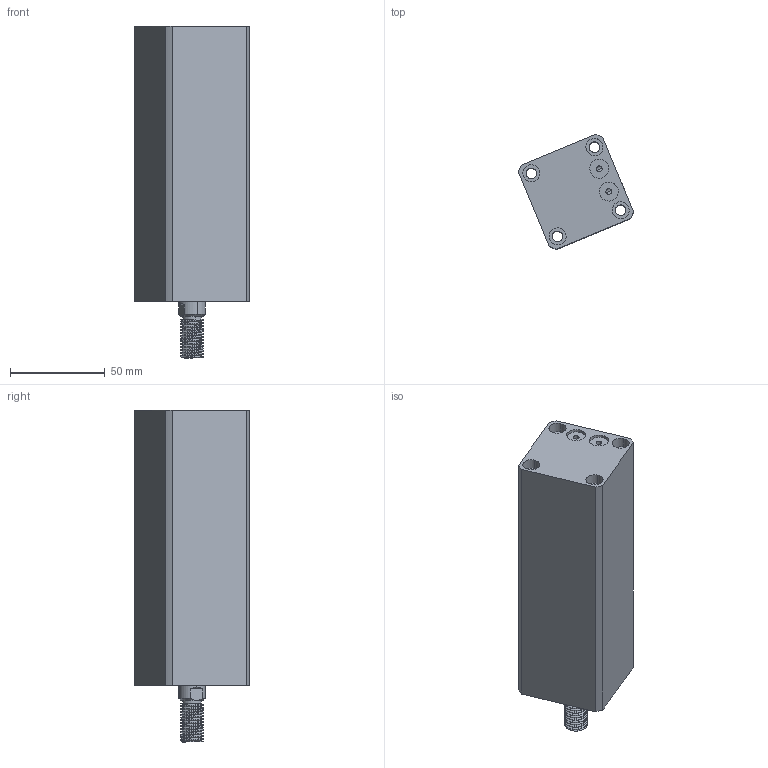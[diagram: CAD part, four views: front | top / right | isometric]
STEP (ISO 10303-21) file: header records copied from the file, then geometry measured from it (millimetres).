
FILE_DESCRIPTION (( 'STEP AP214' ), '1' );
FILE_NAME ('chtb-sdmb25x100w_asm.STEP', '2018-05-24T02:43:22', ( 'Windows' ), ( 'Microsoft' ), 'SwSTEP 2.0', 'SolidWorks 2015', '' );
FILE_SCHEMA (( 'AUTOMOTIVE_DESIGN' ));
Length unit declared in the file: millimetre
Products named in the file (4): CHTB-SDMB25X100WHSG; CHTB-SDMB25X100NBT; CHTB-25QG; chtb-sdmb25x100w_asm
Assembly tree (3 placements, depth 2):
  chtb-sdmb25x100w_asm
    CHTB-25QG
    CHTB-SDMB25X100NBT
    CHTB-SDMB25X100WHSG
Bounding box: 60.55 x 60.55 x 175 mm (x, y, z)
Volume: 283191.8 mm3; surface area: 69171.2 mm2
Topology: 3 solids, 3 shells, 176 faces, 476 edges, 323 vertices
Faces by surface type: cylinder 118, plane 37, bspline 12, cone 9
Entity records: 10721 total; most frequent: CARTESIAN_POINT 6406, ORIENTED_EDGE 944, DIRECTION 765, EDGE_CURVE 472, VERTEX_POINT 323, AXIS2_PLACEMENT_3D 310, EDGE_LOOP 215, FACE_OUTER_BOUND 176
